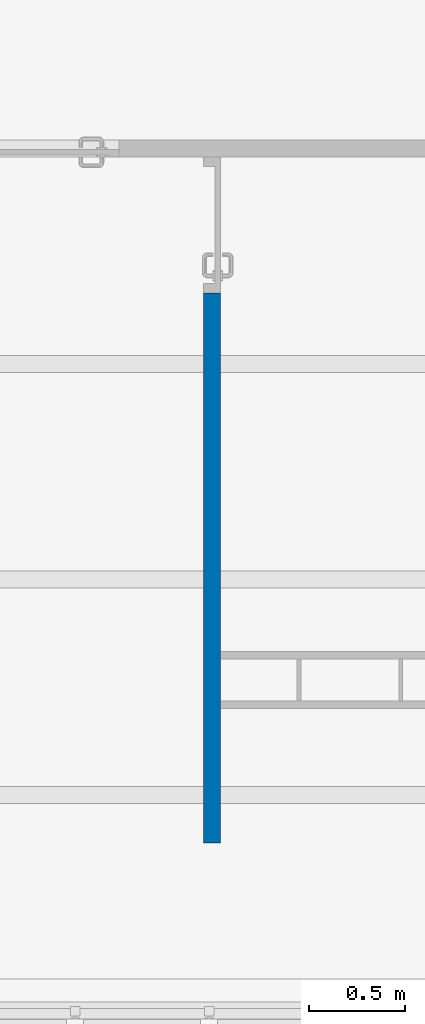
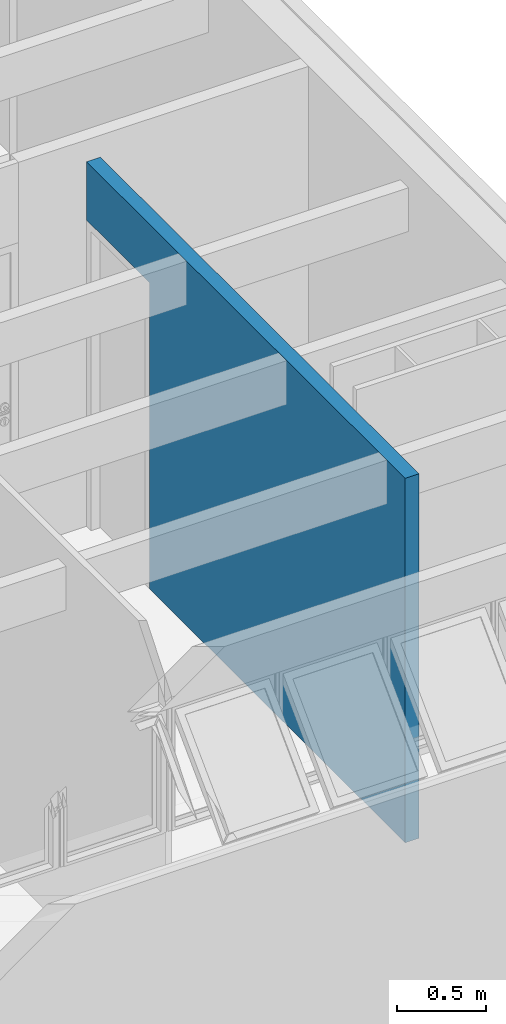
# One storey, part 39 of 40: 1 wall, 1 opening.
"""IFC4 building model written with IfcOpenShell, lengths in millimetres."""

from ifc_helpers import new_model, entity, si_unit, converted_unit, derived_unit, direction, frame, origin_with_axes, origin_2d_with_axis, place, context, subcontext, project, spatial, line, indexed_curve, rectangle, outline, extrude, material, layer, layer_set, layer_usage, type_object, element, save


model = new_model("IFC4")

# Units and contexts
model_context = context("Model", 3, precision=0.01, world=origin_with_axes(), true_north=direction((0.0, 1.0)))
body_context = subcontext(model_context, "Body", "Model", "MODEL_VIEW")
ifc_project = project(units=[si_unit("LENGTHUNIT", "METRE", prefix="MILLI"), si_unit("AREAUNIT", "SQUARE_METRE"), si_unit("VOLUMEUNIT", "CUBIC_METRE"), converted_unit("PLANEANGLEUNIT", "DEGREE", entity("IfcPlaneAngleMeasure", 0.0174532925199), si_unit("PLANEANGLEUNIT", "RADIAN"), dimensions=[0, 0, 0, 0, 0, 0, 0]), converted_unit("TIMEUNIT", "Year", entity("IfcTimeMeasure", 31556926.0), si_unit("TIMEUNIT", "SECOND"), dimensions=[0, 0, 1, 0, 0, 0, 0]), si_unit("MASSUNIT", "GRAM", prefix="KILO"), si_unit("THERMODYNAMICTEMPERATUREUNIT", "DEGREE_CELSIUS"), si_unit("LUMINOUSINTENSITYUNIT", "LUMEN"), si_unit("ENERGYUNIT", "JOULE", prefix="MEGA"), derived_unit("THERMALCONDUCTANCEUNIT", [(si_unit("POWERUNIT", "WATT"), 1), (si_unit("LENGTHUNIT", "METRE"), -1), (si_unit("THERMODYNAMICTEMPERATUREUNIT", "KELVIN"), -1)]), derived_unit("SPECIFICHEATCAPACITYUNIT", [(si_unit("ENERGYUNIT", "JOULE"), 1), (si_unit("MASSUNIT", "GRAM", prefix="KILO"), -1), (si_unit("THERMODYNAMICTEMPERATUREUNIT", "KELVIN"), -1)]), derived_unit("MASSDENSITYUNIT", [(si_unit("MASSUNIT", "GRAM", prefix="KILO"), 1), (si_unit("VOLUMEUNIT", "CUBIC_METRE"), -1)])], contexts=[model_context])

# Site, building, storey
site_placement = place(None, origin_with_axes())
site = spatial("IfcSite", under=ifc_project, at=site_placement, Name="Local", CompositionType="ELEMENT")
building_placement = place(site_placement, origin_with_axes())
building = spatial("IfcBuilding", under=site, at=building_placement, Name="Construção", CompositionType="ELEMENT")
storey_placement = place(building_placement, frame((0.0, 0.0, 5300.0), z_axis=(0.0, 0.0, 1.0), x_axis=(1.0, 0.0, 0.0)))
storey = spatial("IfcBuildingStorey", under=building, at=storey_placement, Name="Terceiro Pavimento", CompositionType="ELEMENT", Elevation=5300.0)

# Wall, opening
ifc_material = material(Name="GENÉRICO - VEDAÇÃO EXTERNA")
ifc_layer = layer(ifc_material, 90.0, ventilated="UNKNOWN", Name="GENÉRICO - VEDAÇÃO EXTERNA")
ifc_layer_set = layer_set([ifc_layer], Name="GENÉRICO - VEDAÇÃO EXTERNA 90")
ifc_layer_usage = layer_usage(ifc_layer_set, "AXIS2", "NEGATIVE", 0.0)
wall_type = type_object("IfcWallType", Name="GENÉRICO - VEDAÇÃO EXTERNA 90", PredefinedType="NOTDEFINED")
wall_placement = place(storey_placement, frame((13040.0, 18814.7804333, 0.0), z_axis=(0.0, 0.0, 1.0), x_axis=(0.0, 1.0, 0.0)))
wall = element("IfcWall", 1, at=wall_placement, inside=storey, type_object=wall_type, material=ifc_layer_usage, Name="APTO12-PAREDE-012", PredefinedType="NOTDEFINED", context=body_context, shape_type="SweptSolid", body=[
    extrude(outline(indexed_curve([(0.0, -90.0), (3580.0, -90.0), (3580.0, 0.0), (0.0, 0.0)], segments=[line(1, 2, 3, 4, 1)])), origin_with_axes(), (0.0, 0.0, 1.0), 2500.0),
])
opening_placement = place(wall_placement, frame((3225.0, 0.0, 0.0), z_axis=(0.0, 0.0, 1.0), x_axis=(1.0, 0.0, 0.0)))
element("IfcOpeningElement", 2, at=opening_placement, cuts=wall, Name="APTO12-PORTA-003", context=body_context, shape_type="SweptSolid", body=[
    extrude(rectangle(XDim=710.0, YDim=2100.0, at=origin_2d_with_axis()), frame((0.0, -90.0, 1050.0), z_axis=(0.0, -1.0, 0.0), x_axis=(1.0, 0.0, 0.0)), (0.0, 0.0, -1.0), 270.0),
])

save(model, "model.ifc")
